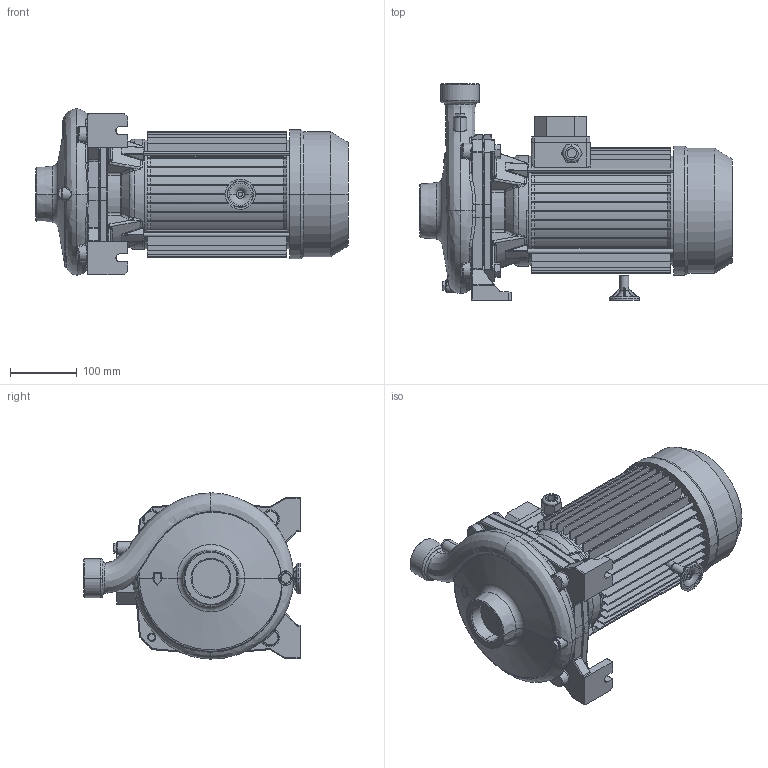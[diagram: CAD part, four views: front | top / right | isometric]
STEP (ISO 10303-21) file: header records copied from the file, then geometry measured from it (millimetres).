
FILE_DESCRIPTION((''),'2;1');
FILE_NAME('CMB_550T_IE3_ASM','2017-07-27T',('rosa'),('"Ebara Pumps Europe +39.444.706811"'),'PRO/ENGINEER BY PARAMETRIC TECHNOLOGY CORPORATION, 2012130','PRO/ENGINEER BY PARAMETRIC TECHNOLOGY CORPORATION, 2012130','');
FILE_SCHEMA(('AUTOMOTIVE_DESIGN { 1 0 10303 214 1 1 1 1 }'));
Length unit declared in the file: millimetre
Products named in the file (5): MEC_100X170_IE3; 80538; 20529; 72003; CMB_550T_IE3_ASM
Assembly tree (4 placements, depth 2):
  CMB_550T_IE3_ASM
    MEC_100X170_IE3
    80538
    20529
    72003
Bounding box: 466.5 x 323.5 x 248.46 mm (x, y, z)
Volume: 8092037.9 mm3; surface area: 946936.2 mm2
Topology: 4 solids, 10 shells, 1397 faces, 3304 edges, 1954 vertices
Faces by surface type: plane 421, bspline 405, cylinder 303, torus 113, cone 112, sphere 43
Entity records: 69381 total; most frequent: CARTESIAN_POINT 30529, ORIENTED_EDGE 6580, DIRECTION 5587, EDGE_CURVE 3298, PRESENTATION_STYLE_ASSIGNMENT 2432, STYLED_ITEM 2432, CURVE_STYLE 2280, AXIS2_PLACEMENT_3D 2238
